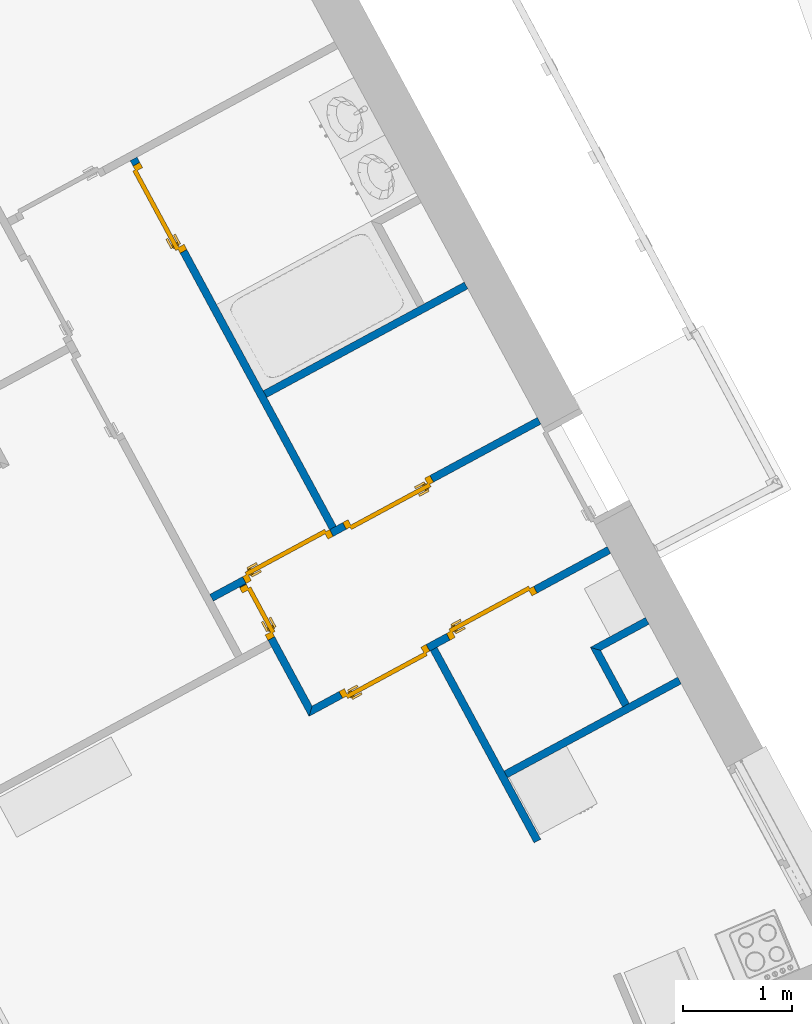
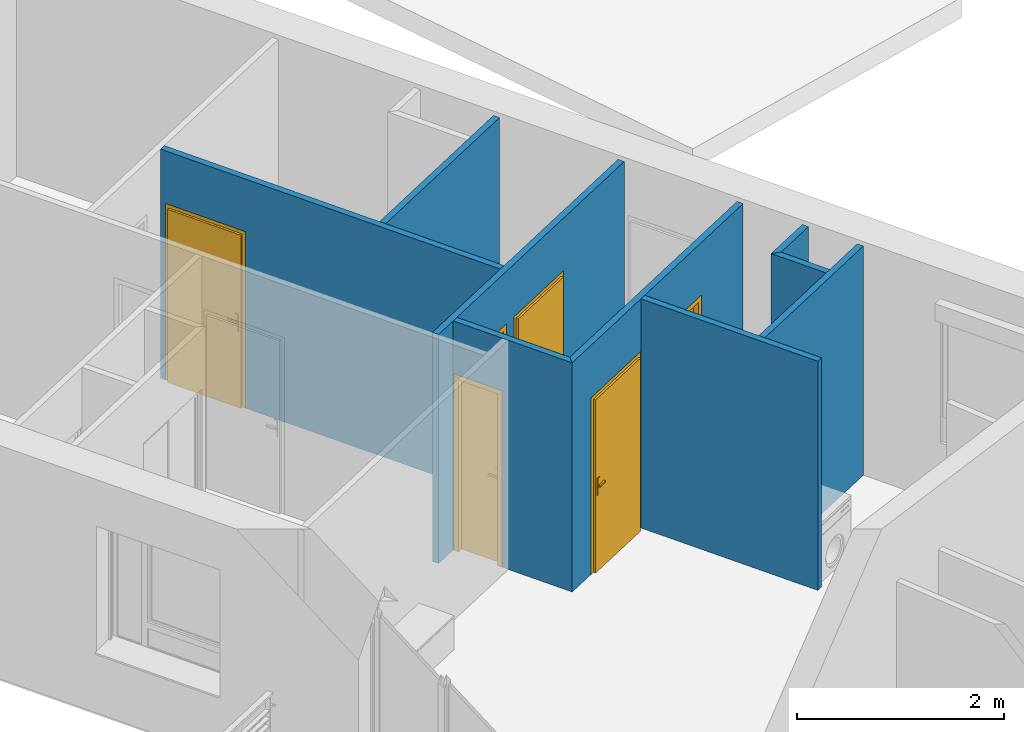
# One storey, part 56 of 121: 9 walls, 6 doors, 6 openings.
"""IFC2X3 building model written with IfcOpenShell, lengths in metres."""

from ifc_helpers import new_model, entity, si_unit, converted_unit, derived_unit, money_unit, direction, frame, origin_with_axes, origin_2d_with_axis, place, context, subcontext, project, spatial, polyline, rectangle, outline, extrude, faceted_brep, source, transform, mapped, material, layer, layer_set, layer_usage, type_object, element, fill, save


model = new_model("IFC2X3")

# Units and contexts
model_context = context("Model", 3, precision=1e-05, world=origin_with_axes(), true_north=direction((0.0, 1.0)))
body_context = subcontext(model_context, "Body", "Model", "MODEL_VIEW")
ifc_project = project(units=[si_unit("LENGTHUNIT", "METRE"), si_unit("AREAUNIT", "SQUARE_METRE"), si_unit("VOLUMEUNIT", "CUBIC_METRE"), converted_unit("PLANEANGLEUNIT", "DEGREE", entity("IfcPlaneAngleMeasure", 0.0174532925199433), si_unit("PLANEANGLEUNIT", "RADIAN"), dimensions=[0, 0, 0, 0, 0, 0, 0]), money_unit("CHF"), converted_unit("TIMEUNIT", "Year", entity("IfcTimeMeasure", 31557600.0), si_unit("TIMEUNIT", "SECOND"), dimensions=[0, 0, 1, 0, 0, 0, 0]), si_unit("MASSUNIT", "GRAM", prefix="KILO"), si_unit("THERMODYNAMICTEMPERATUREUNIT", "DEGREE_CELSIUS"), si_unit("LUMINOUSINTENSITYUNIT", "LUMEN"), si_unit("ENERGYUNIT", "JOULE", prefix="MEGA"), derived_unit("THERMALCONDUCTANCEUNIT", [(si_unit("POWERUNIT", "WATT"), 1), (si_unit("LENGTHUNIT", "METRE"), -1), (si_unit("THERMODYNAMICTEMPERATUREUNIT", "KELVIN"), -1)]), derived_unit("SPECIFICHEATCAPACITYUNIT", [(si_unit("ENERGYUNIT", "JOULE"), 1), (si_unit("MASSUNIT", "GRAM", prefix="KILO"), -1), (si_unit("THERMODYNAMICTEMPERATUREUNIT", "KELVIN"), -1)]), derived_unit("MASSDENSITYUNIT", [(si_unit("MASSUNIT", "GRAM", prefix="KILO"), 1), (si_unit("VOLUMEUNIT", "CUBIC_METRE"), -1)])], contexts=[model_context])

# Site, building, storey
site_placement = place(None, origin_with_axes())
site = spatial("IfcSite", under=ifc_project, at=site_placement, Name="Site", CompositionType="ELEMENT")
building_placement = place(site_placement, origin_with_axes())
building = spatial("IfcBuilding", under=site, at=building_placement, Name="Bâtiment", CompositionType="ELEMENT")
storey_placement = place(building_placement, frame((0.0, 0.0, 2.75), z_axis=(0.0, 0.0, 1.0), x_axis=(1.0, 0.0, 0.0)))
storey = spatial("IfcBuildingStorey", under=building, at=storey_placement, Name="Etage 1", CompositionType="ELEMENT", Elevation=2.75)

# Wall, openings, doors
ifc_material = material(Name="Hachure solide 268963992")
ifc_layer = layer(ifc_material, 0.07, ventilated="UNKNOWN")
ifc_layer_set = layer_set([ifc_layer], Name="Cloison 70 0826278243")
ifc_layer_usage_1 = layer_usage(ifc_layer_set, "AXIS2", "POSITIVE", 0.0)
wall_type = type_object("IfcWallType", Name="Cloison 70 0826278243 70", PredefinedType="NOTDEFINED")
wall_1_placement = place(storey_placement, frame((9562.276464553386, -1033.266513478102, 57.7), z_axis=(0.0, 0.0, 1.0), x_axis=(0.8798137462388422, 0.4753186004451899, 0.0)))
wall_1 = element("IfcWallStandardCase", 1, at=wall_1_placement, inside=storey, type_object=wall_type, material=ifc_layer_usage_1, Name="Mur-149", context=body_context, shape_type="SweptSolid", body=[
    extrude(outline(polyline([(2.146407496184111e-10, 0.0), (3.148769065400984, 0.0), (3.148769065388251, 0.06999999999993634), (0.07000000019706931, 0.06999999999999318), (2.146407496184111e-10, 0.0)])), origin_with_axes(), (0.0, 0.0, 1.0), 2.7),
])
opening_1_placement = place(wall_1_placement, frame((1.926126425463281, 0.0, 0.0), z_axis=(0.0, 0.0, 1.0), x_axis=(1.0, 0.0, 0.0)))
opening_1 = element("IfcOpeningElement", 2, at=opening_1_placement, cuts=wall_1, Name="Por-299", context=body_context, shape_type="SweptSolid", body=[
    extrude(rectangle(XDim=0.9099999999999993, YDim=2.079999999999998, at=origin_2d_with_axis()), frame((0.0, -0.06999999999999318, 1.039999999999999), z_axis=(0.0, 1.0, 0.0), x_axis=(1.0, 0.0, 0.0)), (0.0, 0.0, 1.0), 0.14),
])
opening_2_placement = place(wall_1_placement, frame((0.8050034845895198, 0.0, 0.0), z_axis=(0.0, 0.0, 1.0), x_axis=(1.0, 0.0, 0.0)))
opening_2 = element("IfcOpeningElement", 3, at=opening_2_placement, cuts=wall_1, Name="Por-299", context=body_context, shape_type="SweptSolid", body=[
    extrude(rectangle(XDim=0.9099999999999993, YDim=2.079999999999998, at=origin_2d_with_axis()), frame((0.0, 0.06999999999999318, 1.039999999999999), z_axis=(0.0, 1.0, 0.0), x_axis=(1.0, 0.0, 0.0)), (0.0, 0.0, -1.0), 0.14),
])
door_style = type_object("IfcDoorStyle", Name="Porte_1v", ConstructionType="NOTDEFINED", OperationType="NOTDEFINED", ParameterTakesPrecedence=False, Sizeable=False)
shared_shape_1 = source(origin_with_axes(), body_context, "Body", "Brep", [
    faceted_brep([(0.455, 0.0, 0.0), (0.415, 0.0, 0.0), (0.415, 0.0, 2.04), (-0.415, 0.0, 2.04), (-0.415, 0.0, 0.0), (-0.455, 0.0, 0.0), (-0.455, 0.0, 2.08), (0.455, 0.0, 2.08), (0.455, -0.07, 0.0), (0.4, -0.07, 0.0), (0.4, -0.015, 0.0), (0.415, -0.015, 0.0), (0.415, -0.015, 2.04), (-0.415, -0.015, 2.04), (-0.415, -0.015, 0.0), (-0.4, -0.015, 0.0), (-0.4, -0.07, 0.0), (-0.455, -0.07, 0.0), (-0.455, -0.07, 2.08), (0.455, -0.07, 2.08), (-0.4, -0.07, 2.025), (0.4, -0.07, 2.025), (0.4, -0.015, 2.025), (-0.4, -0.015, 2.025)], [[[0, 1, 2, 3, 4, 5, 6, 7]], [[0, 8, 9, 10, 11, 1]], [[1, 11, 12, 2]], [[2, 12, 13, 3]], [[3, 13, 14, 4]], [[5, 4, 14, 15, 16, 17]], [[18, 6, 5, 17]], [[19, 7, 6, 18]], [[8, 0, 7, 19]], [[9, 8, 19, 18, 17, 16, 20, 21]], [[10, 9, 21, 22]], [[11, 10, 22, 23, 15, 14, 13, 12]], [[23, 20, 16, 15]], [[22, 21, 20, 23]]]),
    faceted_brep([(-0.35, -0.015, 0.9), (-0.39, -0.015, 0.9), (-0.39, -0.015, 1.1), (-0.35, -0.015, 1.1), (-0.35, -0.025, 0.9), (-0.39, -0.025, 0.9), (-0.39, -0.025, 1.1), (-0.35, -0.025, 1.1)], [[[0, 1, 2, 3]], [[1, 0, 4, 5]], [[2, 1, 5, 6]], [[3, 2, 6, 7]], [[0, 3, 7, 4]], [[5, 4, 7, 6]]]),
    faceted_brep([(-0.28, -0.025, 1.0), (-0.38, -0.025, 1.0), (-0.38, -0.025, 1.02), (-0.28, -0.025, 1.02), (-0.28, -0.045, 1.0), (-0.38, -0.045, 1.0), (-0.38, -0.045, 1.02), (-0.28, -0.045, 1.02)], [[[0, 1, 2, 3]], [[1, 0, 4, 5]], [[2, 1, 5, 6]], [[3, 2, 6, 7]], [[0, 3, 7, 4]], [[5, 4, 7, 6]]]),
    faceted_brep([(-0.35, 0.035, 0.9), (-0.39, 0.035, 0.9), (-0.39, 0.035, 1.1), (-0.35, 0.035, 1.1), (-0.35, 0.025, 0.9), (-0.39, 0.025, 0.9), (-0.39, 0.025, 1.1), (-0.35, 0.025, 1.1)], [[[0, 1, 2, 3]], [[1, 0, 4, 5]], [[2, 1, 5, 6]], [[3, 2, 6, 7]], [[0, 3, 7, 4]], [[5, 4, 7, 6]]]),
    faceted_brep([(-0.28, 0.05500000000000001, 1.0), (-0.38, 0.05500000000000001, 1.0), (-0.38, 0.05500000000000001, 1.02), (-0.28, 0.05500000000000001, 1.02), (-0.28, 0.035, 1.0), (-0.38, 0.035, 1.0), (-0.38, 0.035, 1.02), (-0.28, 0.035, 1.02)], [[[0, 1, 2, 3]], [[1, 0, 4, 5]], [[2, 1, 5, 6]], [[3, 2, 6, 7]], [[0, 3, 7, 4]], [[5, 4, 7, 6]]]),
    faceted_brep([(-0.415, 0.025, 0.0), (0.415, 0.025, 0.0), (0.415, -0.015, 0.0), (-0.415, -0.015, 0.0), (-0.415, 0.025, 2.04), (0.415, 0.025, 2.04), (0.415, -0.015, 2.04), (-0.415, -0.015, 2.04)], [[[0, 1, 2, 3]], [[0, 4, 5, 1]], [[1, 5, 6, 2]], [[3, 2, 6, 7]], [[4, 0, 3, 7]], [[5, 4, 7, 6]]]),
])
door_1_placement = place(opening_1_placement, frame((-0.4149999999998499, 0.0, 0.0), z_axis=(0.0, 0.0, 1.0), x_axis=(1.0, 0.0, 0.0)))
door_1 = element("IfcDoor", 4, at=door_1_placement, inside=storey, type_object=door_style, Name="Por-299", OverallHeight=2.04, OverallWidth=0.83, context=body_context, shape_type="MappedRepresentation", body=[
    mapped(shared_shape_1, transform((0.4149999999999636, 0.06999999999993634, 0.0))),
])
fill(opening_1, door_1)
shared_shape_2 = source(origin_with_axes(), body_context, "Body", "Brep", [
    faceted_brep([(-0.455, 0.0, 0.0), (-0.455, 0.0, 2.08), (0.455, 0.0, 2.08), (0.455, 0.0, 0.0), (0.415, 0.0, 0.0), (0.415, 0.0, 2.04), (-0.415, 0.0, 2.04), (-0.415, 0.0, 0.0), (-0.455, -0.07, 0.0), (-0.455, -0.07, 2.08), (0.455, -0.07, 2.08), (0.455, -0.07, 0.0), (0.4, -0.07, 0.0), (0.4, -0.015, 0.0), (0.415, -0.015, 0.0), (0.415, -0.015, 2.04), (-0.415, -0.015, 2.04), (-0.415, -0.015, 0.0), (-0.4, -0.015, 0.0), (-0.4, -0.07, 0.0), (-0.4, -0.07, 2.025), (0.4, -0.07, 2.025), (0.4, -0.015, 2.025), (-0.4, -0.015, 2.025)], [[[0, 1, 2, 3, 4, 5, 6, 7]], [[8, 9, 1, 0]], [[9, 10, 2, 1]], [[10, 11, 3, 2]], [[3, 11, 12, 13, 14, 4]], [[5, 4, 14, 15]], [[6, 5, 15, 16]], [[7, 6, 16, 17]], [[0, 7, 17, 18, 19, 8]], [[19, 20, 21, 12, 11, 10, 9, 8]], [[22, 13, 12, 21]], [[17, 16, 15, 14, 13, 22, 23, 18]], [[18, 23, 20, 19]], [[23, 22, 21, 20]]]),
    faceted_brep([(0.35, -0.015, 0.9), (0.35, -0.015, 1.1), (0.39, -0.015, 1.1), (0.39, -0.015, 0.9), (0.35, -0.025, 0.9), (0.35, -0.025, 1.1), (0.39, -0.025, 1.1), (0.39, -0.025, 0.9)], [[[0, 1, 2, 3]], [[0, 4, 5, 1]], [[1, 5, 6, 2]], [[2, 6, 7, 3]], [[3, 7, 4, 0]], [[7, 6, 5, 4]]]),
    faceted_brep([(0.28, -0.025, 1.0), (0.28, -0.025, 1.02), (0.38, -0.025, 1.02), (0.38, -0.025, 1.0), (0.28, -0.045, 1.0), (0.28, -0.045, 1.02), (0.38, -0.045, 1.02), (0.38, -0.045, 1.0)], [[[0, 1, 2, 3]], [[0, 4, 5, 1]], [[1, 5, 6, 2]], [[2, 6, 7, 3]], [[3, 7, 4, 0]], [[7, 6, 5, 4]]]),
    faceted_brep([(0.35, 0.035, 0.9), (0.35, 0.035, 1.1), (0.39, 0.035, 1.1), (0.39, 0.035, 0.9), (0.35, 0.025, 0.9), (0.35, 0.025, 1.1), (0.39, 0.025, 1.1), (0.39, 0.025, 0.9)], [[[0, 1, 2, 3]], [[0, 4, 5, 1]], [[1, 5, 6, 2]], [[2, 6, 7, 3]], [[3, 7, 4, 0]], [[7, 6, 5, 4]]]),
    faceted_brep([(0.28, 0.05500000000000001, 1.0), (0.28, 0.05500000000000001, 1.02), (0.38, 0.05500000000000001, 1.02), (0.38, 0.05500000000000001, 1.0), (0.28, 0.035, 1.0), (0.28, 0.035, 1.02), (0.38, 0.035, 1.02), (0.38, 0.035, 1.0)], [[[0, 1, 2, 3]], [[0, 4, 5, 1]], [[1, 5, 6, 2]], [[2, 6, 7, 3]], [[3, 7, 4, 0]], [[7, 6, 5, 4]]]),
    faceted_brep([(0.415, 0.025, 0.0), (0.415, -0.015, 0.0), (-0.415, -0.015, 0.0), (-0.415, 0.025, 0.0), (0.415, 0.025, 2.04), (0.415, -0.015, 2.04), (-0.415, -0.015, 2.04), (-0.415, 0.025, 2.04)], [[[0, 1, 2, 3]], [[4, 5, 1, 0]], [[1, 5, 6, 2]], [[3, 2, 6, 7]], [[0, 3, 7, 4]], [[7, 6, 5, 4]]]),
])
door_2_placement = place(opening_2_placement, frame((0.4150000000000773, 0.0, 0.0), z_axis=(0.0, 0.0, 1.0), x_axis=(-1.0, 0.0, 0.0)))
door_2 = element("IfcDoor", 5, at=door_2_placement, inside=storey, type_object=door_style, Name="Por-299", OverallHeight=2.04, OverallWidth=0.83, context=body_context, shape_type="MappedRepresentation", body=[
    mapped(shared_shape_2, transform((0.4149999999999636, 0.0, 0.0))),
])
fill(opening_2, door_2)

ifc_layer_usage_2 = layer_usage(ifc_layer_set, "AXIS2", "NEGATIVE", 0.0)
wall_2_placement = place(storey_placement, frame((9564.74015638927, -1030.402794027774, 57.7), z_axis=(0.0, 0.0, 1.0), x_axis=(-0.8798137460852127, -0.4753186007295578, 0.0)))
wall_2 = element("IfcWallStandardCase", 6, at=wall_2_placement, inside=storey, type_object=wall_type, material=ifc_layer_usage_2, Name="Mur-149", context=body_context, shape_type="SweptSolid", body=[
    extrude(outline(polyline([(0.3799999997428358, -0.06999999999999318), (3.798769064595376, -0.06999999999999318), (3.79876906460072, 0.0), (0.3799999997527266, 0.0), (0.3799999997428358, -0.06999999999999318)])), origin_with_axes(), (0.0, 0.0, 1.0), 2.7),
])
opening_3_placement = place(wall_2_placement, frame((1.956257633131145, 0.0, 0.0), z_axis=(0.0, 0.0, 1.0), x_axis=(1.0, 0.0, 0.0)))
opening_3 = element("IfcOpeningElement", 7, at=opening_3_placement, cuts=wall_2, Name="Por-299", context=body_context, shape_type="SweptSolid", body=[
    extrude(rectangle(XDim=0.9099999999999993, YDim=2.079999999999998, at=origin_2d_with_axis()), frame((0.0, -0.06999999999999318, 1.039999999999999), z_axis=(0.0, 1.0, 0.0), x_axis=(1.0, 0.0, 0.0)), (0.0, 0.0, 1.0), 0.14),
])
opening_4_placement = place(wall_2_placement, frame((3.002404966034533, 0.0, 0.0), z_axis=(0.0, 0.0, 1.0), x_axis=(1.0, 0.0, 0.0)))
opening_4 = element("IfcOpeningElement", 8, at=opening_4_placement, cuts=wall_2, Name="Por-299", context=body_context, shape_type="SweptSolid", body=[
    extrude(rectangle(XDim=0.9099999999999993, YDim=2.079999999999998, at=origin_2d_with_axis()), frame((0.0, 0.06999999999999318, 1.039999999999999), z_axis=(0.0, -1.0, 0.0), x_axis=(-1.0, 0.0, 0.0)), (0.0, 0.0, 1.0), 0.14),
])
door_3_placement = place(opening_4_placement, frame((0.4149999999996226, 0.0, 0.0), z_axis=(0.0, 0.0, 1.0), x_axis=(-1.0, 0.0, 0.0)))
door_3 = element("IfcDoor", 9, at=door_3_placement, inside=storey, type_object=door_style, Name="Por-299", OverallHeight=2.04, OverallWidth=0.83, context=body_context, shape_type="MappedRepresentation", body=[
    mapped(shared_shape_1, transform((0.4150000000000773, 0.06999999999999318, 0.0))),
])
fill(opening_4, door_3)
door_4_placement = place(opening_3_placement, frame((-0.4150000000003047, 0.0, 0.0), z_axis=(0.0, 0.0, 1.0), x_axis=(1.0, 0.0, 0.0)))
door_4 = element("IfcDoor", 10, at=door_4_placement, inside=storey, type_object=door_style, Name="Por-299", OverallHeight=2.04, OverallWidth=0.83, context=body_context, shape_type="MappedRepresentation", body=[
    mapped(shared_shape_1, transform((0.4150000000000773, 0.0, 0.0))),
])
fill(opening_3, door_4)

# Walls
ifc_layer_usage_3 = layer_usage(ifc_layer_set, "AXIS2", "NEGATIVE", 0.0)
wall_3_placement = place(storey_placement, frame((9563.451637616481, -1032.631627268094, 57.7), z_axis=(0.0, 0.0, 1.0), x_axis=(0.4753186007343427, -0.8798137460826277, 0.0)))
element("IfcWallStandardCase", 11, at=wall_3_placement, inside=storey, type_object=wall_type, material=ifc_layer_usage_3, Name="Mur-149", context=body_context, shape_type="SweptSolid", body=[
    extrude(outline(polyline([(-7.915446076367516e-10, -0.06999999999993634), (2.00396996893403, -0.06999999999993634), (2.003969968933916, 0.0), (-7.685230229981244e-10, 0.0), (-7.915446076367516e-10, -0.06999999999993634)])), origin_with_axes(), (0.0, 0.0, 1.0), 2.7),
])
ifc_layer_usage_4 = layer_usage(ifc_layer_set, "AXIS2", "POSITIVE", 0.0)
wall_4_placement = place(storey_placement, frame((9564.099102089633, -1033.830082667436, 57.7), z_axis=(0.0, 0.0, 1.0), x_axis=(0.8798137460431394, 0.4753186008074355, 0.0)))
element("IfcWallStandardCase", 12, at=wall_4_placement, inside=storey, type_object=wall_type, material=ifc_layer_usage_4, Name="Mur-149", context=body_context, shape_type="SweptSolid", body=[
    extrude(outline(polyline([(-1.220996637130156e-10, 0.0), (1.813062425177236, 0.0), (1.813062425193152, 0.07000000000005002), (-1.161879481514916e-10, 0.07000000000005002), (-1.220996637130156e-10, 0.0)])), origin_with_axes(), (0.0, 0.0, 1.0), 2.7),
])
ifc_layer_usage_5 = layer_usage(ifc_layer_set, "AXIS2", "NEGATIVE", 0.0)
wall_5_placement = place(storey_placement, frame((9565.154317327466, -1033.180441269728, 57.7), z_axis=(0.0, 0.0, 1.0), x_axis=(-0.4753185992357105, 0.8798137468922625, 0.0)))
element("IfcWallStandardCase", 13, at=wall_5_placement, inside=storey, type_object=wall_type, material=ifc_layer_usage_5, Name="Mur-149", context=body_context, shape_type="SweptSolid", body=[
    extrude(outline(polyline([(0.0, -0.07000000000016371), (0.5522261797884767, -0.07000000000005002), (0.6222241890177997, 0.0), (0.0, 0.0), (0.0, -0.07000000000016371)])), origin_with_axes(), (0.0, 0.0, 1.0), 2.7),
])
ifc_layer_usage_6 = layer_usage(ifc_layer_set, "AXIS2", "NEGATIVE", 0.0)
wall_6_placement = place(storey_placement, frame((9564.069137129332, -1029.160738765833, 57.7), z_axis=(0.0, 0.0, 1.0), x_axis=(-0.8798137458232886, -0.4753186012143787, 0.0)))
element("IfcWallStandardCase", 14, at=wall_6_placement, inside=storey, type_object=wall_type, material=ifc_layer_usage_6, Name="Mur-149", context=body_context, shape_type="SweptSolid", body=[
    extrude(outline(polyline([(0.3799999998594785, -0.06999999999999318), (2.478769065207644, -0.06999999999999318), (2.478769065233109, 0.0), (0.3799999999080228, 0.0), (0.3799999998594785, -0.06999999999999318)])), origin_with_axes(), (0.0, 0.0, 1.0), 2.7),
])

# Wall, opening, door
ifc_layer_usage_7 = layer_usage(ifc_layer_set, "AXIS2", "NEGATIVE", 0.0)
wall_7_placement = place(storey_placement, frame((9560.696009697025, -1028.132050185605, 57.7), z_axis=(0.0, 0.0, 1.0), x_axis=(0.4753186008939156, -0.8798137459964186, 0.0)))
wall_7 = element("IfcWallStandardCase", 15, at=wall_7_placement, inside=storey, type_object=wall_type, material=ifc_layer_usage_7, Name="Mur-149", context=body_context, shape_type="SweptSolid", body=[
    extrude(outline(polyline([(-9.787299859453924e-10, -0.07000000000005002), (3.850089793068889, -0.06999999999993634), (3.85008979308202, 0.0), (-9.381437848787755e-10, 0.0), (-9.787299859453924e-10, -0.07000000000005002)])), origin_with_axes(), (0.0, 0.0, 1.0), 2.7),
])
opening_5_placement = place(wall_7_placement, frame((0.5097203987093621, 0.0, 0.0), z_axis=(0.0, 0.0, 1.0), x_axis=(1.0, 0.0, 0.0)))
opening_5 = element("IfcOpeningElement", 16, at=opening_5_placement, cuts=wall_7, Name="Por-299", context=body_context, shape_type="SweptSolid", body=[
    extrude(rectangle(XDim=0.9099999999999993, YDim=2.079999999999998, at=origin_2d_with_axis()), frame((0.0, 0.07000000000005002, 1.039999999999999), z_axis=(0.0, -1.0, 0.0), x_axis=(-1.0, 0.0, 0.0)), (0.0, 0.0, 1.0), 0.14),
])
door_5_placement = place(opening_5_placement, frame((0.4149999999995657, 0.0, 0.0), z_axis=(0.0, 0.0, 1.0), x_axis=(-1.0, 0.0, 0.0)))
door_5 = element("IfcDoor", 17, at=door_5_placement, inside=storey, type_object=door_style, Name="Por-299", OverallHeight=2.04, OverallWidth=0.83, context=body_context, shape_type="MappedRepresentation", body=[
    mapped(shared_shape_1, transform((0.4150000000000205, 0.06999999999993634, 0.0))),
])
fill(opening_5, door_5)

ifc_layer_usage_8 = layer_usage(ifc_layer_set, "AXIS2", "NEGATIVE", 0.0)
wall_8_placement = place(storey_placement, frame((9562.276464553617, -1033.26651347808, 57.7), z_axis=(0.0, 0.0, 1.0), x_axis=(-0.4753186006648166, 0.8798137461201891, 0.0)))
wall_8 = element("IfcWallStandardCase", 18, at=wall_8_placement, inside=storey, type_object=wall_type, material=ifc_layer_usage_8, Name="Mur-149", context=body_context, shape_type="SweptSolid", body=[
    extrude(outline(polyline([(0.07000000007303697, -0.06999999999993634), (1.348501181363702, -0.07000000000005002), (1.348501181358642, 0.0), (0.0, 0.0), (0.07000000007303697, -0.06999999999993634)])), origin_with_axes(), (0.0, 0.0, 1.0), 2.7),
])
opening_6_placement = place(wall_8_placement, frame((1.067283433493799, 0.0, 0.0), z_axis=(0.0, 0.0, 1.0), x_axis=(1.0, 0.0, 0.0)))
opening_6 = element("IfcOpeningElement", 19, at=opening_6_placement, cuts=wall_8, Name="Por-320", context=body_context, shape_type="SweptSolid", body=[
    extrude(rectangle(XDim=0.547405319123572, YDim=2.079999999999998, at=origin_2d_with_axis()), frame((-2.722629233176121e-09, 0.06999999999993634, 1.039999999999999), z_axis=(0.0, 1.0, 0.0), x_axis=(1.0, 0.0, 0.0)), (0.0, 0.0, -1.0), 0.14),
])
shared_shape_3 = source(origin_with_axes(), body_context, "Body", "Brep", [
    faceted_brep([(-0.2737026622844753, 0.0, 0.0), (-0.2737026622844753, 0.0, 2.08), (0.2737026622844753, 0.0, 2.08), (0.2737026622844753, 0.0, 0.0), (0.2337026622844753, 0.0, 0.0), (0.2337026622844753, 0.0, 2.04), (-0.2337026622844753, 0.0, 2.04), (-0.2337026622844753, 0.0, 0.0), (-0.2737026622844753, -0.07, 0.0), (-0.2737026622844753, -0.07, 2.08), (0.2737026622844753, -0.07, 2.08), (0.2737026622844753, -0.07, 0.0), (0.2187026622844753, -0.07, 0.0), (0.2187026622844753, -0.015, 0.0), (0.2337026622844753, -0.015, 0.0), (0.2337026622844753, -0.015, 2.04), (-0.2337026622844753, -0.015, 2.04), (-0.2337026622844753, -0.015, 0.0), (-0.2187026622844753, -0.015, 0.0), (-0.2187026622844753, -0.07, 0.0), (-0.2187026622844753, -0.07, 2.025), (0.2187026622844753, -0.07, 2.025), (0.2187026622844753, -0.015, 2.025), (-0.2187026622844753, -0.015, 2.025)], [[[0, 1, 2, 3, 4, 5, 6, 7]], [[8, 9, 1, 0]], [[9, 10, 2, 1]], [[10, 11, 3, 2]], [[3, 11, 12, 13, 14, 4]], [[5, 4, 14, 15]], [[6, 5, 15, 16]], [[7, 6, 16, 17]], [[0, 7, 17, 18, 19, 8]], [[19, 20, 21, 12, 11, 10, 9, 8]], [[22, 13, 12, 21]], [[17, 16, 15, 14, 13, 22, 23, 18]], [[18, 23, 20, 19]], [[23, 22, 21, 20]]]),
    faceted_brep([(0.1687026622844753, -0.015, 0.9), (0.1687026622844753, -0.015, 1.1), (0.2087026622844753, -0.015, 1.1), (0.2087026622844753, -0.015, 0.9), (0.1687026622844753, -0.025, 0.9), (0.1687026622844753, -0.025, 1.1), (0.2087026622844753, -0.025, 1.1), (0.2087026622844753, -0.025, 0.9)], [[[0, 1, 2, 3]], [[0, 4, 5, 1]], [[1, 5, 6, 2]], [[2, 6, 7, 3]], [[3, 7, 4, 0]], [[7, 6, 5, 4]]]),
    faceted_brep([(0.0987026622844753, -0.025, 1.0), (0.0987026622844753, -0.025, 1.02), (0.1987026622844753, -0.025, 1.02), (0.1987026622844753, -0.025, 1.0), (0.0987026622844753, -0.045, 1.0), (0.0987026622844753, -0.045, 1.02), (0.1987026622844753, -0.045, 1.02), (0.1987026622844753, -0.045, 1.0)], [[[0, 1, 2, 3]], [[0, 4, 5, 1]], [[1, 5, 6, 2]], [[2, 6, 7, 3]], [[3, 7, 4, 0]], [[7, 6, 5, 4]]]),
    faceted_brep([(0.1687026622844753, 0.035, 0.9), (0.1687026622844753, 0.035, 1.1), (0.2087026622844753, 0.035, 1.1), (0.2087026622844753, 0.035, 0.9), (0.1687026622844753, 0.025, 0.9), (0.1687026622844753, 0.025, 1.1), (0.2087026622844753, 0.025, 1.1), (0.2087026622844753, 0.025, 0.9)], [[[0, 1, 2, 3]], [[0, 4, 5, 1]], [[1, 5, 6, 2]], [[2, 6, 7, 3]], [[3, 7, 4, 0]], [[7, 6, 5, 4]]]),
    faceted_brep([(0.0987026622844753, 0.05500000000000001, 1.0), (0.0987026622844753, 0.05500000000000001, 1.02), (0.1987026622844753, 0.05500000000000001, 1.02), (0.1987026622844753, 0.05500000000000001, 1.0), (0.0987026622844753, 0.035, 1.0), (0.0987026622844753, 0.035, 1.02), (0.1987026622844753, 0.035, 1.02), (0.1987026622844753, 0.035, 1.0)], [[[0, 1, 2, 3]], [[0, 4, 5, 1]], [[1, 5, 6, 2]], [[2, 6, 7, 3]], [[3, 7, 4, 0]], [[7, 6, 5, 4]]]),
    faceted_brep([(0.2337026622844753, 0.025, 0.0), (0.2337026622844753, -0.015, 0.0), (-0.2337026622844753, -0.015, 0.0), (-0.2337026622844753, 0.025, 0.0), (0.2337026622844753, 0.025, 2.04), (0.2337026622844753, -0.015, 2.04), (-0.2337026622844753, -0.015, 2.04), (-0.2337026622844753, 0.025, 2.04)], [[[0, 1, 2, 3]], [[4, 5, 1, 0]], [[1, 5, 6, 2]], [[3, 2, 6, 7]], [[0, 3, 7, 4]], [[7, 6, 5, 4]]]),
])
door_6_placement = place(opening_6_placement, frame((0.233702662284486, 0.0, 0.0), z_axis=(0.0, 0.0, 1.0), x_axis=(-1.0, 0.0, 0.0)))
door_6 = element("IfcDoor", 20, at=door_6_placement, inside=storey, type_object=door_style, Name="Por-320", OverallHeight=2.04, OverallWidth=0.467405, context=body_context, shape_type="MappedRepresentation", body=[
    mapped(shared_shape_3, transform((0.2337026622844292, 0.07000000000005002, 0.0))),
])
fill(opening_6, door_6)

# Wall
ifc_layer_usage_9 = layer_usage(ifc_layer_set, "AXIS2", "POSITIVE", 0.0)
wall_9_placement = place(storey_placement, frame((9564.891834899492, -1032.694586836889, 57.7), z_axis=(0.0, 0.0, 1.0), x_axis=(0.8798002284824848, 0.4753436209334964, 0.0)))
element("IfcWallStandardCase", 21, at=wall_9_placement, inside=storey, type_object=wall_type, material=ifc_layer_usage_9, Name="Mur-149", context=body_context, shape_type="SweptSolid", body=[
    extrude(outline(polyline([(0.07000000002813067, 0.0), (0.575882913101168, 0.0), (0.5758849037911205, 0.07000000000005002), (1.990798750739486e-06, 0.06999999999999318), (0.07000000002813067, 0.0)])), origin_with_axes(), (0.0, 0.0, 1.0), 2.7),
])

save(model, "model.ifc")
